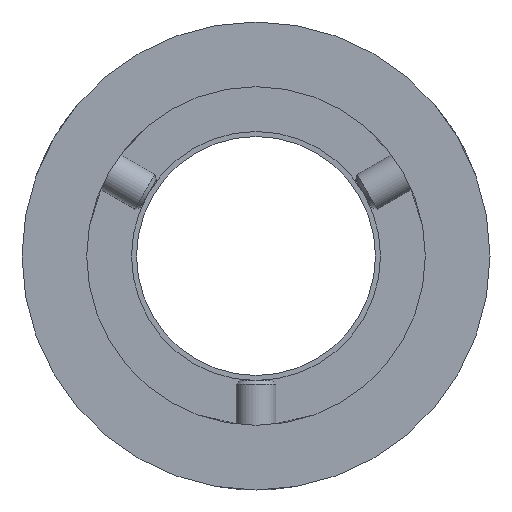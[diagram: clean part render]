
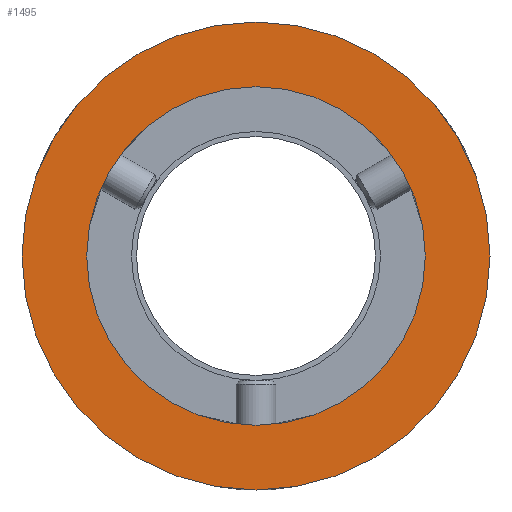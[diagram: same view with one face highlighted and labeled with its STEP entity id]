
A CAD part, front view. The second image highlights one B-rep face of the part: STEP entity #1495.
In plain terms, the highlighted planar face has unit normal (0, -1, 0).
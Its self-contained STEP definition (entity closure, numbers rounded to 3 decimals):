
#9 = DIRECTION ( 'NONE',  ( 0., 0., -1. ) ) ;
#117 = DIRECTION ( 'NONE',  ( 0., 0., -1. ) ) ;
#125 = DIRECTION ( 'NONE',  ( 0., -1., 0. ) ) ;
#201 = AXIS2_PLACEMENT_3D ( 'NONE', #2644, #1827, #922 ) ;
#338 = CARTESIAN_POINT ( 'NONE',  ( 0., 0., 0. ) ) ;
#477 = VERTEX_POINT ( 'NONE', #1151 ) ;
#532 = VERTEX_POINT ( 'NONE', #1190 ) ;
#582 = CIRCLE ( 'NONE', #201, 23.5 ) ;
#693 = ORIENTED_EDGE ( 'NONE', *, *, #1805, .F. ) ;
#853 = AXIS2_PLACEMENT_3D ( 'NONE', #1345, #916, #117 ) ;
#887 = AXIS2_PLACEMENT_3D ( 'NONE', #338, #1177, #2415 ) ;
#916 = DIRECTION ( 'NONE',  ( 0., -1., 0. ) ) ;
#922 = DIRECTION ( 'NONE',  ( 0., 0., -1. ) ) ;
#1028 = CARTESIAN_POINT ( 'NONE',  ( 0., 0., 23.5 ) ) ;
#1101 = DIRECTION ( 'NONE',  ( 0., 0., -1. ) ) ;
#1151 = CARTESIAN_POINT ( 'NONE',  ( 0., 0., 17. ) ) ;
#1177 = DIRECTION ( 'NONE',  ( 0., -1., 0. ) ) ;
#1190 = CARTESIAN_POINT ( 'NONE',  ( 0., 0., -23.5 ) ) ;
#1210 = FACE_OUTER_BOUND ( 'NONE', #3238, .T. ) ;
#1270 = ORIENTED_EDGE ( 'NONE', *, *, #2544, .F. ) ;
#1345 = CARTESIAN_POINT ( 'NONE',  ( 0., 0., 0. ) ) ;
#1357 = ORIENTED_EDGE ( 'NONE', *, *, #1920, .T. ) ;
#1495 = ADVANCED_FACE ( 'NONE', ( #1498, #1210 ), #1521, .T. ) ;
#1498 = FACE_BOUND ( 'NONE', #1663, .T. ) ;
#1521 = PLANE ( 'NONE',  #2128 ) ;
#1579 = CIRCLE ( 'NONE', #887, 23.5 ) ;
#1663 = EDGE_LOOP ( 'NONE', ( #1270, #693 ) ) ;
#1734 = CIRCLE ( 'NONE', #853, 17. ) ;
#1767 = CARTESIAN_POINT ( 'NONE',  ( 12., 0., 0. ) ) ;
#1805 = EDGE_CURVE ( 'NONE', #477, #1930, #1734, .T. ) ;
#1827 = DIRECTION ( 'NONE',  ( 0., -1., 0. ) ) ;
#1855 = CARTESIAN_POINT ( 'NONE',  ( 0., 0., -17. ) ) ;
#1920 = EDGE_CURVE ( 'NONE', #532, #3194, #1579, .T. ) ;
#1930 = VERTEX_POINT ( 'NONE', #1855 ) ;
#1970 = CARTESIAN_POINT ( 'NONE',  ( 0., 0., 0. ) ) ;
#2098 = EDGE_CURVE ( 'NONE', #3194, #532, #582, .T. ) ;
#2128 = AXIS2_PLACEMENT_3D ( 'NONE', #1767, #2684, #9 ) ;
#2400 = ORIENTED_EDGE ( 'NONE', *, *, #2098, .T. ) ;
#2415 = DIRECTION ( 'NONE',  ( 0., 0., -1. ) ) ;
#2544 = EDGE_CURVE ( 'NONE', #1930, #477, #2690, .T. ) ;
#2644 = CARTESIAN_POINT ( 'NONE',  ( 0., 0., 0. ) ) ;
#2684 = DIRECTION ( 'NONE',  ( 0., -1., 0. ) ) ;
#2690 = CIRCLE ( 'NONE', #2954, 17. ) ;
#2954 = AXIS2_PLACEMENT_3D ( 'NONE', #1970, #125, #1101 ) ;
#3194 = VERTEX_POINT ( 'NONE', #1028 ) ;
#3238 = EDGE_LOOP ( 'NONE', ( #1357, #2400 ) ) ;
